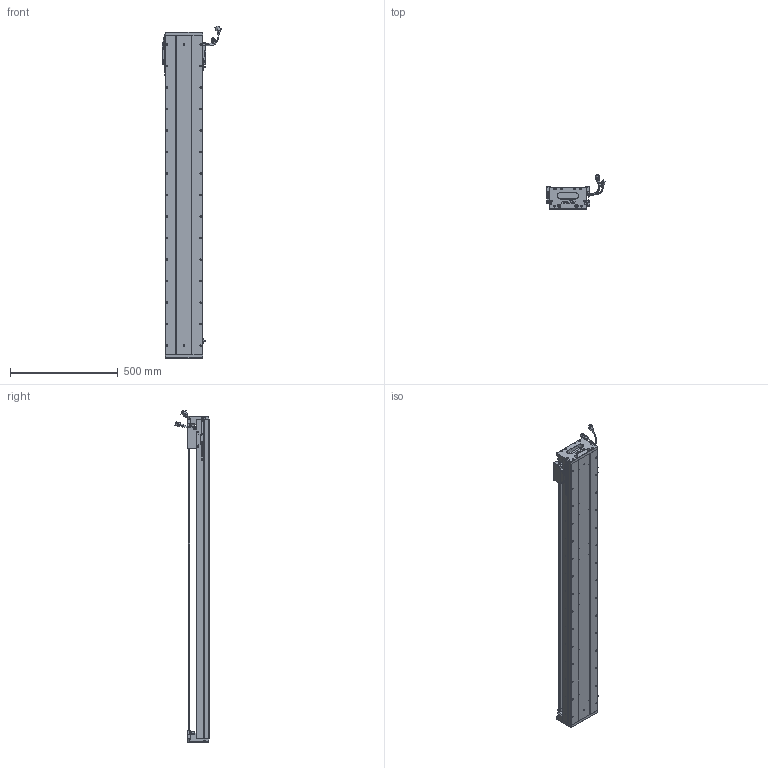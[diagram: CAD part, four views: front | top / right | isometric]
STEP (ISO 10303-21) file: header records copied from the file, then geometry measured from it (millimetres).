
FILE_DESCRIPTION (( 'STEP AP203' ), '1' );
FILE_NAME ('Z1-RY170D-1-L500-B-K.SLDASM_1300.step', '2021-05-17T08:52:51', ( '盈信电脑' ), ( '东莞市道滘镇水果街19号' ), 'SwSTEP 2.0', 'SolidWorks 2016', '' );
FILE_SCHEMA (( 'CONFIG_CONTROL_DESIGN' ));
Length unit declared in the file: millimetre
Products named in the file (36): SCREW-M1.6; Z1-RY170D-1-L500-B-K.SLDASM_1300; Z-170詩湍傷裔啣; HOLDER0; COVER; LABEL-Part-1; HARNESS; SCALE-Part-1; Z-RY170詩湍狟揤裔; SCREW-M1.7-1; SHIELDPLATE; SCREW-M1.6-1; Z1-RY170-L500耀郪菁釱_1300; SCREW-M1.6-3; HARNESS-Part-1; 140蚥薯蝶輸; 170-Z-臏賑輸盄裔(21遴); SCREW-M1.6-2; Z1-RY170臏賑輸(21遴); SCALE; 覜茼ん672; LABEL; RY170直线电机感应器672光电感应片; PBU_SHEET; SCALE-Part-2; SEAL; HARNESS-Part-2; Z1-RY170-L500詩湍145mm遵_1300; SCREW-M1.7; 榋妏寠巭燃_暯_M2_2; COVER-Part-1; 080黍杅芛假蚾釱21遴; SEAL-Part-1; 140雄赽晤鎢ん堤盄; Z-RY170詩湍奻揤裔; PSLH080_PSLF2
Assembly tree (41 placements, depth 4):
  Z1-RY170D-1-L500-B-K.SLDASM_1300
    Z1-RY170-L500耀郪菁釱_1300
    RY170直线电机感应器672光电感应片
    Z1-RY170臏賑輸(21遴)
    覜茼ん672  x3
    PSLH080_PSLF2
      SCALE
        SCALE-Part-1
        SCALE-Part-2
      HARNESS
        HARNESS-Part-1
        HARNESS-Part-2
      LABEL
        LABEL-Part-1
      COVER
        COVER-Part-1
      SEAL
        SEAL-Part-1
      榋妏寠巭燃_暯_M2_2
      SHIELDPLATE
      SCREW-M1.7
      SCREW-M1.7-1
      PBU_SHEET
      SCREW-M1.6
      SCREW-M1.6-1
      SCREW-M1.6-2
      SCREW-M1.6-3
      HOLDER0
    080黍杅芛假蚾釱21遴
    Z1-RY170-L500詩湍145mm遵_1300
    Z-170詩湍傷裔啣  x2
    Z-RY170詩湍奻揤裔  x2
    Z-RY170詩湍狟揤裔  x2
    140蚥薯蝶輸  x2
    170-Z-臏賑輸盄裔(21遴)
    140雄赽晤鎢ん堤盄
Bounding box: 275.33 x 158.11 x 1543.72 mm (x, y, z)
Volume: 7818536 mm3; surface area: 1947493.8 mm2
Topology: 36 solids, 36 shells, 3252 faces, 8827 edges, 5541 vertices
Faces by surface type: cylinder 1530, plane 1188, cone 412, torus 69, bspline 53
Entity records: 97807 total; most frequent: CARTESIAN_POINT 25994, ORIENTED_EDGE 14402, DIRECTION 13833, EDGE_CURVE 7201, AXIS2_PLACEMENT_3D 5054, VERTEX_POINT 4659, LINE 3725, VECTOR 3725
